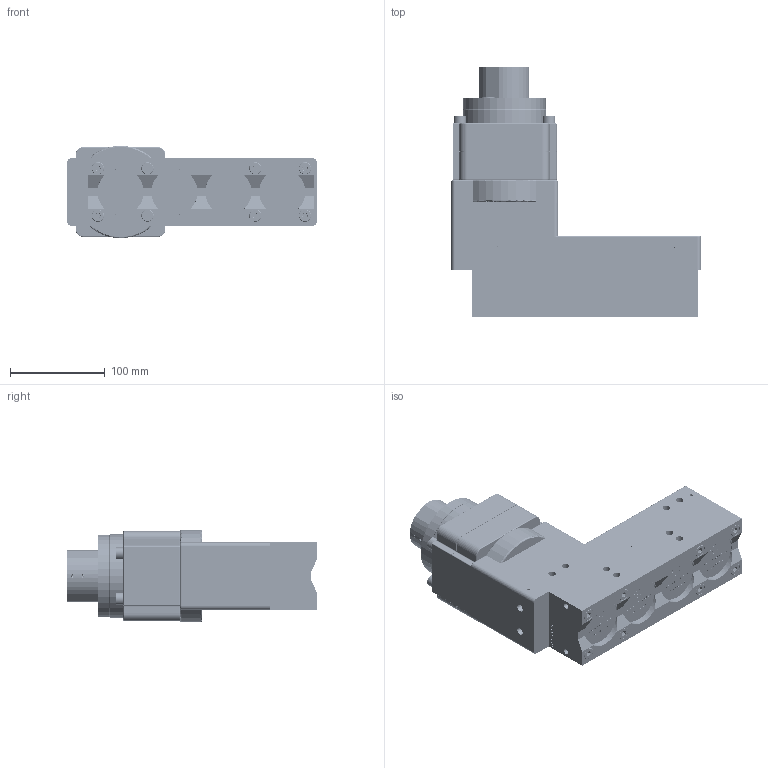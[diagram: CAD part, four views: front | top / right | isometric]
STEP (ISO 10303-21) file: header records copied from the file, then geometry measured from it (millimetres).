
FILE_DESCRIPTION (( 'STEP AP203' ), '1' );
FILE_NAME ('80001488_s.STEP', '2023-02-13T18:58:59', ( '' ), ( '' ), 'SwSTEP 2.0', 'SolidWorks 2022', '' );
FILE_SCHEMA (( 'CONFIG_CONTROL_DESIGN' ));
Products named in the file (1): 80001488_s
Bounding box: 263.91 x 264.07 x 97.65 mm (x, y, z)
Volume: 2686476.5 mm3; surface area: 406502 mm2
Topology: 44 solids, 44 shells, 5975 faces, 15672 edges, 10223 vertices
Faces by surface type: plane 2271, cylinder 2005, bspline 1205, cone 402, torus 82, sphere 10
Entity records: 280546 total; most frequent: CARTESIAN_POINT 148673, ORIENTED_EDGE 31270, DIRECTION 21714, EDGE_CURVE 15635, VERTEX_POINT 10220, LINE 8300, VECTOR 8300, AXIS2_PLACEMENT_3D 6707
